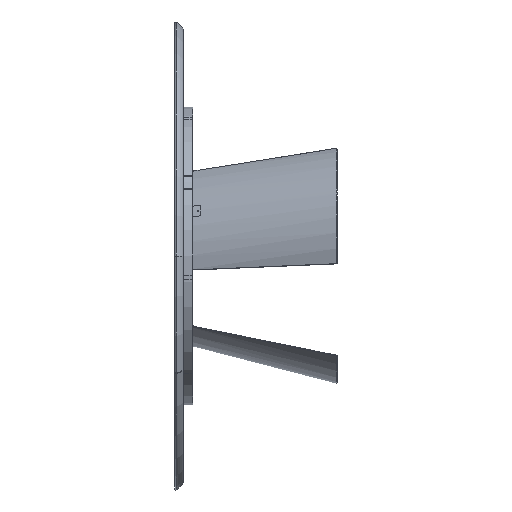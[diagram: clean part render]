
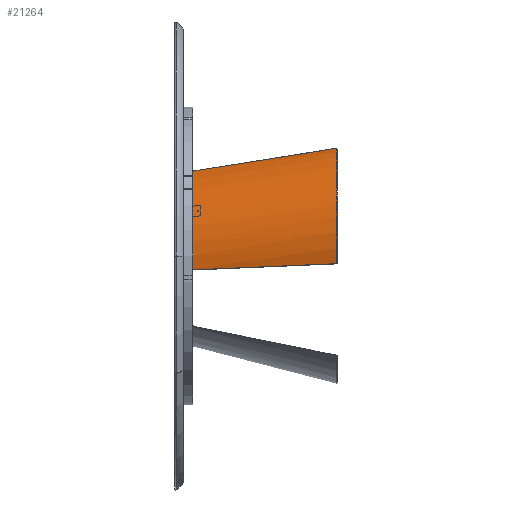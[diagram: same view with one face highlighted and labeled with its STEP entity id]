
A CAD part, left-side view. The second image highlights one B-rep face of the part: STEP entity #21264.
In plain terms, the highlighted cylindrical face has radius 455 mm (diameter 910 mm), a partial arc.
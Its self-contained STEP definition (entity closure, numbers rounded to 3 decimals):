
#129 = ORIENTED_EDGE ( 'NONE', *, *, #15234, .T. ) ;
#159 = CARTESIAN_POINT ( 'NONE',  ( -187.694, 720., -216.518 ) ) ;
#435 = CARTESIAN_POINT ( 'NONE',  ( 0., 720., -186.04 ) ) ;
#970 = CARTESIAN_POINT ( 'NONE',  ( 0., 720., -186.04 ) ) ;
#1850 = VERTEX_POINT ( 'NONE', #15668 ) ;
#2577 =( BOUNDED_CURVE ( )  B_SPLINE_CURVE ( 3, ( #12840, #21846, #13260, #17696 ),
 .UNSPECIFIED., .F., .F. ) 
 B_SPLINE_CURVE_WITH_KNOTS ( ( 4, 4 ),
 ( 5.521, 6.257 ),
 .UNSPECIFIED. ) 
 CURVE ( )  GEOMETRIC_REPRESENTATION_ITEM ( )  RATIONAL_B_SPLINE_CURVE ( ( 1., 0.955, 0.955, 1. ) ) 
 REPRESENTATION_ITEM ( '' )  );
#2600 = CARTESIAN_POINT ( 'NONE',  ( 126.14, 1.243, -3.458 ) ) ;
#2811 =( BOUNDED_CURVE ( )  B_SPLINE_CURVE ( 3, ( #17826, #9673, #4854, #970 ),
 .UNSPECIFIED., .F., .F. ) 
 B_SPLINE_CURVE_WITH_KNOTS ( ( 4, 4 ),
 ( 5.659, 6.283 ),
 .UNSPECIFIED. ) 
 CURVE ( )  GEOMETRIC_REPRESENTATION_ITEM ( )  RATIONAL_B_SPLINE_CURVE ( ( 1., 0.968, 0.968, 1. ) ) 
 REPRESENTATION_ITEM ( '' )  );
#3181 = EDGE_CURVE ( 'NONE', #7734, #1850, #11736, .T. ) ;
#3251 = ORIENTED_EDGE ( 'NONE', *, *, #9839, .F. ) ;
#3437 = EDGE_CURVE ( 'NONE', #4480, #19276, #8391, .T. ) ;
#4480 = VERTEX_POINT ( 'NONE', #435 ) ;
#4712 = CARTESIAN_POINT ( 'NONE',  ( 314.022, 0.906, -129.942 ) ) ;
#4854 = CARTESIAN_POINT ( 'NONE',  ( 96.167, 720., -186.04 ) ) ;
#4858 = AXIS2_PLACEMENT_3D ( 'NONE', #19671, #15659, #24372 ) ;
#4912 = DIRECTION ( 'NONE',  ( 0., -0.968, 0.25 ) ) ;
#6314 = CARTESIAN_POINT ( 'NONE',  ( 12.104, 1.251, -0.325 ) ) ;
#7283 = ORIENTED_EDGE ( 'NONE', *, *, #13582, .T. ) ;
#7734 = VERTEX_POINT ( 'NONE', #13552 ) ;
#8391 =( BOUNDED_CURVE ( )  B_SPLINE_CURVE ( 3, ( #17433, #10722, #159, #25722 ),
 .UNSPECIFIED., .F., .T. ) 
 B_SPLINE_CURVE_WITH_KNOTS ( ( 4, 4 ),
 ( 0., 0.624 ),
 .UNSPECIFIED. ) 
 CURVE ( )  GEOMETRIC_REPRESENTATION_ITEM ( )  RATIONAL_B_SPLINE_CURVE ( ( 1., 0.968, 0.968, 1. ) ) 
 REPRESENTATION_ITEM ( '' )  );
#9111 = ORIENTED_EDGE ( 'NONE', *, *, #23517, .T. ) ;
#9673 = CARTESIAN_POINT ( 'NONE',  ( 187.694, 720., -216.518 ) ) ;
#9839 = EDGE_CURVE ( 'NONE', #25684, #19276, #14070, .T. ) ;
#10177 = VERTEX_POINT ( 'NONE', #26451 ) ;
#10722 = CARTESIAN_POINT ( 'NONE',  ( -96.167, 720., -186.04 ) ) ;
#11278 = CARTESIAN_POINT ( 'NONE',  ( 265.753, 720., -274.535 ) ) ;
#11332 = EDGE_LOOP ( 'NONE', ( #9111, #25615, #3251, #129, #19738, #7283, #27063 ) ) ;
#11635 = CARTESIAN_POINT ( 'NONE',  ( -314.022, 0.906, -129.942 ) ) ;
#11736 = CIRCLE ( 'NONE', #15393, 455. ) ;
#12653 = CARTESIAN_POINT ( 'NONE',  ( -298.867, 241.995, -177.363 ) ) ;
#12840 = CARTESIAN_POINT ( 'NONE',  ( -314.022, 0.906, -129.942 ) ) ;
#12917 = CARTESIAN_POINT ( 'NONE',  ( -314.022, 0.906, -129.942 ) ) ;
#13107 = CYLINDRICAL_SURFACE ( 'NONE', #4858, 455. ) ;
#13260 = CARTESIAN_POINT ( 'NONE',  ( -126.14, 1.243, -3.458 ) ) ;
#13268 = CARTESIAN_POINT ( 'NONE',  ( 298.867, 241.995, -177.363 ) ) ;
#13552 = CARTESIAN_POINT ( 'NONE',  ( 12.104, 1.251, -0.325 ) ) ;
#13582 = EDGE_CURVE ( 'NONE', #7734, #25708, #20997, .T. ) ;
#13659 = FACE_OUTER_BOUND ( 'NONE', #11332, .T. ) ;
#14070 =( BOUNDED_CURVE ( )  B_SPLINE_CURVE ( 3, ( #12917, #12653, #17220, #21638 ),
 .UNSPECIFIED., .F., .T. ) 
 B_SPLINE_CURVE_WITH_KNOTS ( ( 4, 4 ),
 ( 1.582, 1.719 ),
 .UNSPECIFIED. ) 
 CURVE ( )  GEOMETRIC_REPRESENTATION_ITEM ( )  RATIONAL_B_SPLINE_CURVE ( ( 1., 0.998, 0.998, 1. ) ) 
 REPRESENTATION_ITEM ( '' )  );
#15234 = EDGE_CURVE ( 'NONE', #25684, #1850, #2577, .T. ) ;
#15393 = AXIS2_PLACEMENT_3D ( 'NONE', #24466, #4912, #22322 ) ;
#15659 = DIRECTION ( 'NONE',  ( 0., -0.968, 0.25 ) ) ;
#15668 = CARTESIAN_POINT ( 'NONE',  ( -12.104, 1.251, -0.325 ) ) ;
#17220 = CARTESIAN_POINT ( 'NONE',  ( -282.752, 482.074, -225.637 ) ) ;
#17433 = CARTESIAN_POINT ( 'NONE',  ( 0., 720., -186.04 ) ) ;
#17696 = CARTESIAN_POINT ( 'NONE',  ( -12.104, 1.251, -0.325 ) ) ;
#17826 = CARTESIAN_POINT ( 'NONE',  ( 265.753, 720., -274.535 ) ) ;
#19276 = VERTEX_POINT ( 'NONE', #23721 ) ;
#19671 = CARTESIAN_POINT ( 'NONE',  ( 0., 690.447, -648.367 ) ) ;
#19738 = ORIENTED_EDGE ( 'NONE', *, *, #3181, .F. ) ;
#19869 = CARTESIAN_POINT ( 'NONE',  ( 231.469, 1.123, -48.677 ) ) ;
#20878 = EDGE_CURVE ( 'NONE', #25708, #10177, #26917, .T. ) ;
#20997 =( BOUNDED_CURVE ( )  B_SPLINE_CURVE ( 3, ( #6314, #2600, #19869, #26010 ),
 .UNSPECIFIED., .F., .T. ) 
 B_SPLINE_CURVE_WITH_KNOTS ( ( 4, 4 ),
 ( 0.027, 0.762 ),
 .UNSPECIFIED. ) 
 CURVE ( )  GEOMETRIC_REPRESENTATION_ITEM ( )  RATIONAL_B_SPLINE_CURVE ( ( 1., 0.955, 0.955, 1. ) ) 
 REPRESENTATION_ITEM ( '' )  );
#21264 = ADVANCED_FACE ( 'NONE', ( #13659 ), #13107, .T. ) ;
#21638 = CARTESIAN_POINT ( 'NONE',  ( -265.753, 720., -274.535 ) ) ;
#21846 = CARTESIAN_POINT ( 'NONE',  ( -231.469, 1.123, -48.677 ) ) ;
#22322 = DIRECTION ( 'NONE',  ( -1., 0., 0. ) ) ;
#23517 = EDGE_CURVE ( 'NONE', #10177, #4480, #2811, .T. ) ;
#23721 = CARTESIAN_POINT ( 'NONE',  ( -265.753, 720., -274.535 ) ) ;
#24372 = DIRECTION ( 'NONE',  ( 0., -0.25, -0.968 ) ) ;
#24466 = CARTESIAN_POINT ( 'NONE',  ( 0., -112.631, -440.677 ) ) ;
#24773 = CARTESIAN_POINT ( 'NONE',  ( 314.022, 0.906, -129.942 ) ) ;
#25615 = ORIENTED_EDGE ( 'NONE', *, *, #3437, .T. ) ;
#25684 = VERTEX_POINT ( 'NONE', #11635 ) ;
#25708 = VERTEX_POINT ( 'NONE', #24773 ) ;
#25722 = CARTESIAN_POINT ( 'NONE',  ( -265.753, 720., -274.535 ) ) ;
#26010 = CARTESIAN_POINT ( 'NONE',  ( 314.022, 0.906, -129.942 ) ) ;
#26282 = CARTESIAN_POINT ( 'NONE',  ( 282.752, 482.074, -225.637 ) ) ;
#26451 = CARTESIAN_POINT ( 'NONE',  ( 265.753, 720., -274.535 ) ) ;
#26917 =( BOUNDED_CURVE ( )  B_SPLINE_CURVE ( 3, ( #4712, #13268, #26282, #11278 ),
 .UNSPECIFIED., .F., .T. ) 
 B_SPLINE_CURVE_WITH_KNOTS ( ( 4, 4 ),
 ( 1.582, 1.719 ),
 .UNSPECIFIED. ) 
 CURVE ( )  GEOMETRIC_REPRESENTATION_ITEM ( )  RATIONAL_B_SPLINE_CURVE ( ( 1., 0.998, 0.998, 1. ) ) 
 REPRESENTATION_ITEM ( '' )  );
#27063 = ORIENTED_EDGE ( 'NONE', *, *, #20878, .T. ) ;
